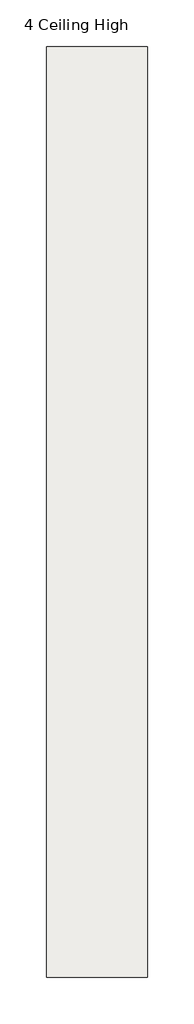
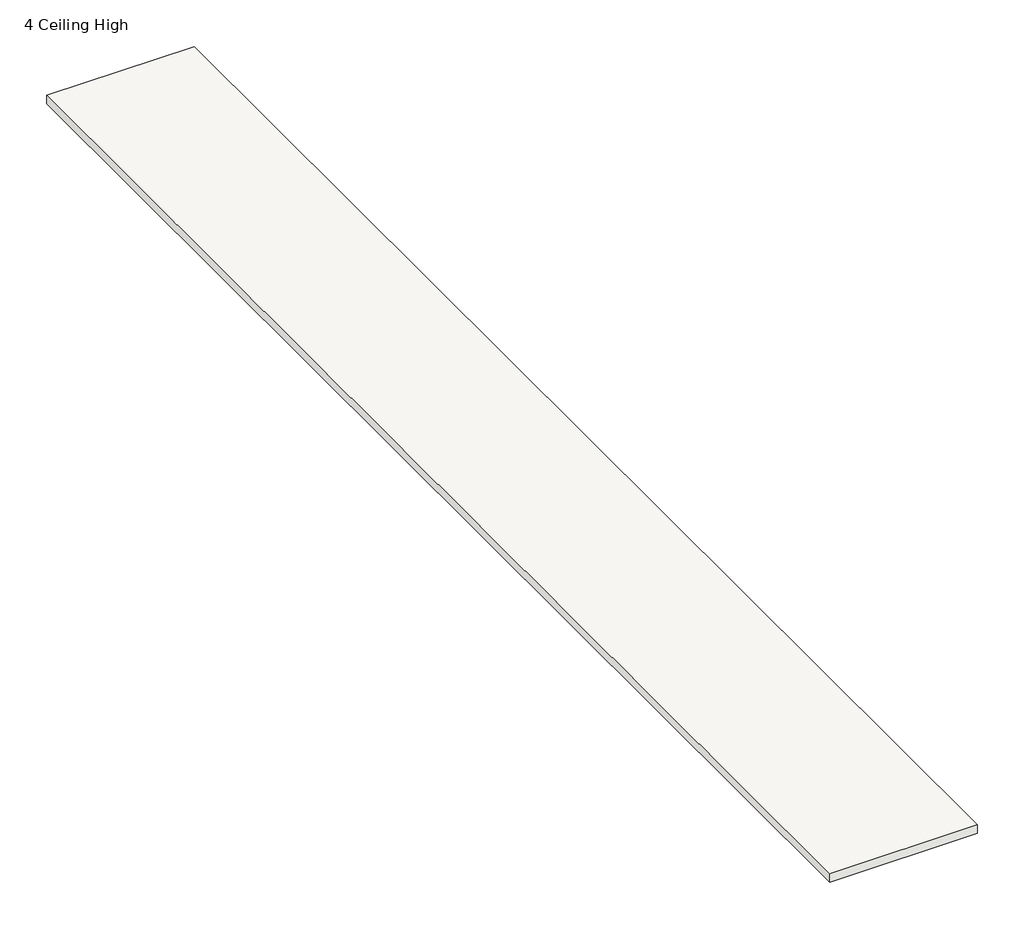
# One storey: 1 covering.
"""IFC4 building model written with IfcOpenShell, lengths in millimetres."""

from ifc_helpers import new_model, si_unit, origin, origin_with_axes, place, context, project, spatial, polyline, outline, extrude, element, save

model = new_model("IFC4")

# Units and contexts
model_context = context("Model", 3, world=origin())
ifc_project = project(units=[si_unit("LENGTHUNIT", "METRE", prefix="MILLI")], contexts=[model_context])

# Site, building, storey
site = spatial("IfcSite", under=ifc_project)
building = spatial("IfcBuilding", under=site)
storey = spatial("IfcBuildingStorey", under=building, Name="4 Ceiling High", Elevation=0.0)

# Covering
placement = place(None, origin())
element("IfcCovering", 1, ObjectType="Controsoffitto", at=placement, inside=storey, context=model_context, shape_type="SweptSolid", body=[
    extrude(outline(polyline([(2500.0, -7000.0), (2500.0, -53000.0), (-2500.0, -53000.0), (-2500.0, -7000.0), (2500.0, -7000.0)])), origin_with_axes(), (0.0, 0.0, 1.0), 300.0),
])

save(model, "model.ifc")
